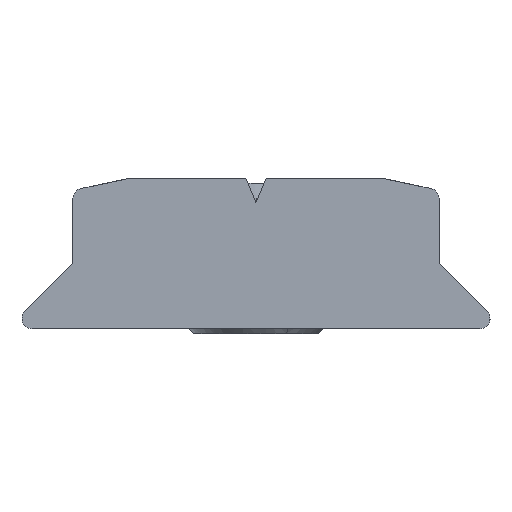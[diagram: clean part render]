
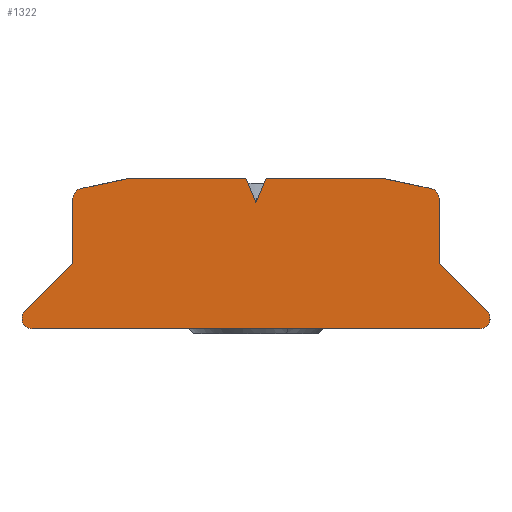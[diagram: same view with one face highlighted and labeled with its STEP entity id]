
A CAD part, left-side view. The second image highlights one B-rep face of the part: STEP entity #1322.
In plain terms, the highlighted planar face has unit normal (-1, 0, 0).
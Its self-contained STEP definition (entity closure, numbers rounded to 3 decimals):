
#574=CARTESIAN_POINT('Vertex',(0.,-4.467,8.7)) ;
#579=CARTESIAN_POINT('Line Origine',(0.,0.,8.7)) ;
#583=CARTESIAN_POINT('Vertex',(0.,4.467,8.7)) ;
#925=CARTESIAN_POINT('Vertex',(0.,-2.546,11.696)) ;
#928=CARTESIAN_POINT('Line Origine',(0.,-3.019,11.595)) ;
#932=CARTESIAN_POINT('Vertex',(0.,-3.492,11.495)) ;
#985=CARTESIAN_POINT('Vertex',(0.,-2.504,11.7)) ;
#988=CARTESIAN_POINT('Axis2P3D Location',(0.,-2.504,11.5)) ;
#1020=CARTESIAN_POINT('Vertex',(0.,-0.2,11.7)) ;
#1023=CARTESIAN_POINT('Line Origine',(0.,-1.352,11.7)) ;
#1199=CARTESIAN_POINT('Axis2P3D Location',(0.,4.467,8.9)) ;
#1203=CARTESIAN_POINT('Vertex',(0.,4.609,9.041)) ;
#1218=CARTESIAN_POINT('Axis2P3D Location',(0.,0.,0.)) ;
#1223=CARTESIAN_POINT('Line Origine',(0.,-0.1,11.459)) ;
#1227=CARTESIAN_POINT('Vertex',(0.,0.,11.217)) ;
#1230=CARTESIAN_POINT('Line Origine',(0.,0.1,11.459)) ;
#1234=CARTESIAN_POINT('Vertex',(0.,0.2,11.7)) ;
#1237=CARTESIAN_POINT('Line Origine',(0.,1.352,11.7)) ;
#1241=CARTESIAN_POINT('Vertex',(0.,2.504,11.7)) ;
#1244=CARTESIAN_POINT('Axis2P3D Location',(0.,2.504,11.5)) ;
#1248=CARTESIAN_POINT('Vertex',(0.,2.546,11.696)) ;
#1251=CARTESIAN_POINT('Line Origine',(0.,3.019,11.595)) ;
#1255=CARTESIAN_POINT('Vertex',(0.,3.492,11.495)) ;
#1258=CARTESIAN_POINT('Axis2P3D Location',(0.,3.45,11.299)) ;
#1262=CARTESIAN_POINT('Vertex',(0.,3.65,11.299)) ;
#1265=CARTESIAN_POINT('Line Origine',(0.,3.65,10.649)) ;
#1269=CARTESIAN_POINT('Vertex',(0.,3.65,10.)) ;
#1272=CARTESIAN_POINT('Line Origine',(0.,4.129,9.521)) ;
#1277=CARTESIAN_POINT('Axis2P3D Location',(0.,-4.467,8.9)) ;
#1281=CARTESIAN_POINT('Vertex',(0.,-4.609,9.041)) ;
#1284=CARTESIAN_POINT('Line Origine',(0.,-4.129,9.521)) ;
#1288=CARTESIAN_POINT('Vertex',(0.,-3.65,10.)) ;
#1291=CARTESIAN_POINT('Line Origine',(0.,-3.65,10.649)) ;
#1295=CARTESIAN_POINT('Vertex',(0.,-3.65,11.299)) ;
#1298=CARTESIAN_POINT('Axis2P3D Location',(0.,-3.45,11.299)) ;
#580=DIRECTION('Vector Direction',(0.,-1.,0.)) ;
#929=DIRECTION('Vector Direction',(0.,-0.978,-0.208)) ;
#989=DIRECTION('Axis2P3D Direction',(1.,0.,0.)) ;
#1024=DIRECTION('Vector Direction',(0.,1.,0.)) ;
#1200=DIRECTION('Axis2P3D Direction',(1.,0.,0.)) ;
#1219=DIRECTION('Axis2P3D Direction',(1.,0.,0.)) ;
#1220=DIRECTION('Axis2P3D XDirection',(0.,1.,0.)) ;
#1224=DIRECTION('Vector Direction',(0.,0.383,-0.924)) ;
#1231=DIRECTION('Vector Direction',(0.,0.383,0.924)) ;
#1238=DIRECTION('Vector Direction',(0.,1.,0.)) ;
#1245=DIRECTION('Axis2P3D Direction',(1.,0.,0.)) ;
#1252=DIRECTION('Vector Direction',(0.,0.978,-0.208)) ;
#1259=DIRECTION('Axis2P3D Direction',(1.,0.,0.)) ;
#1266=DIRECTION('Vector Direction',(0.,0.,-1.)) ;
#1273=DIRECTION('Vector Direction',(0.,0.707,-0.707)) ;
#1278=DIRECTION('Axis2P3D Direction',(1.,0.,0.)) ;
#1285=DIRECTION('Vector Direction',(0.,-0.707,-0.707)) ;
#1292=DIRECTION('Vector Direction',(0.,0.,-1.)) ;
#1299=DIRECTION('Axis2P3D Direction',(1.,0.,0.)) ;
#990=AXIS2_PLACEMENT_3D('Circle Axis2P3D',#988,#989,$) ;
#1201=AXIS2_PLACEMENT_3D('Circle Axis2P3D',#1199,#1200,$) ;
#1221=AXIS2_PLACEMENT_3D('Plane Axis2P3D',#1218,#1219,#1220) ;
#1246=AXIS2_PLACEMENT_3D('Circle Axis2P3D',#1244,#1245,$) ;
#1260=AXIS2_PLACEMENT_3D('Circle Axis2P3D',#1258,#1259,$) ;
#1279=AXIS2_PLACEMENT_3D('Circle Axis2P3D',#1277,#1278,$) ;
#1300=AXIS2_PLACEMENT_3D('Circle Axis2P3D',#1298,#1299,$) ;
#1304=ORIENTED_EDGE('',*,*,#1229,.T.) ;
#1305=ORIENTED_EDGE('',*,*,#1236,.T.) ;
#1306=ORIENTED_EDGE('',*,*,#1243,.F.) ;
#1307=ORIENTED_EDGE('',*,*,#1250,.F.) ;
#1308=ORIENTED_EDGE('',*,*,#1257,.F.) ;
#1309=ORIENTED_EDGE('',*,*,#1264,.F.) ;
#1310=ORIENTED_EDGE('',*,*,#1271,.F.) ;
#1311=ORIENTED_EDGE('',*,*,#1276,.F.) ;
#1312=ORIENTED_EDGE('',*,*,#1205,.F.) ;
#1313=ORIENTED_EDGE('',*,*,#585,.F.) ;
#1314=ORIENTED_EDGE('',*,*,#1283,.F.) ;
#1315=ORIENTED_EDGE('',*,*,#1290,.F.) ;
#1316=ORIENTED_EDGE('',*,*,#1297,.F.) ;
#1317=ORIENTED_EDGE('',*,*,#1302,.F.) ;
#1318=ORIENTED_EDGE('',*,*,#934,.F.) ;
#1319=ORIENTED_EDGE('',*,*,#992,.F.) ;
#1320=ORIENTED_EDGE('',*,*,#1027,.F.) ;
#581=VECTOR('Line Direction',#580,1.) ;
#930=VECTOR('Line Direction',#929,1.) ;
#1025=VECTOR('Line Direction',#1024,1.) ;
#1225=VECTOR('Line Direction',#1224,1.) ;
#1232=VECTOR('Line Direction',#1231,1.) ;
#1239=VECTOR('Line Direction',#1238,1.) ;
#1253=VECTOR('Line Direction',#1252,1.) ;
#1267=VECTOR('Line Direction',#1266,1.) ;
#1274=VECTOR('Line Direction',#1273,1.) ;
#1286=VECTOR('Line Direction',#1285,1.) ;
#1293=VECTOR('Line Direction',#1292,1.) ;
#1322=ADVANCED_FACE('EGT_200_NUTENSTEIN_K.1\\PartBody',(#1321),#1222,.F.) ;
#991=CIRCLE('generated circle',#990,0.2) ;
#1202=CIRCLE('generated circle',#1201,0.2) ;
#1247=CIRCLE('generated circle',#1246,0.2) ;
#1261=CIRCLE('generated circle',#1260,0.2) ;
#1280=CIRCLE('generated circle',#1279,0.2) ;
#1301=CIRCLE('generated circle',#1300,0.2) ;
#585=EDGE_CURVE('',#575,#584,#582,.F.) ;
#934=EDGE_CURVE('',#926,#933,#931,.T.) ;
#992=EDGE_CURVE('',#986,#926,#991,.T.) ;
#1027=EDGE_CURVE('',#1021,#986,#1026,.F.) ;
#1205=EDGE_CURVE('',#584,#1204,#1202,.T.) ;
#1229=EDGE_CURVE('',#1021,#1228,#1226,.T.) ;
#1236=EDGE_CURVE('',#1228,#1235,#1233,.T.) ;
#1243=EDGE_CURVE('',#1242,#1235,#1240,.F.) ;
#1250=EDGE_CURVE('',#1249,#1242,#1247,.T.) ;
#1257=EDGE_CURVE('',#1256,#1249,#1254,.F.) ;
#1264=EDGE_CURVE('',#1263,#1256,#1261,.T.) ;
#1271=EDGE_CURVE('',#1270,#1263,#1268,.F.) ;
#1276=EDGE_CURVE('',#1204,#1270,#1275,.F.) ;
#1283=EDGE_CURVE('',#1282,#575,#1280,.T.) ;
#1290=EDGE_CURVE('',#1289,#1282,#1287,.T.) ;
#1297=EDGE_CURVE('',#1296,#1289,#1294,.T.) ;
#1302=EDGE_CURVE('',#933,#1296,#1301,.T.) ;
#1303=EDGE_LOOP('',(#1304,#1305,#1306,#1307,#1308,#1309,#1310,#1311,#1312,#1313,#1314,#1315,#1316,#1317,#1318,#1319,#1320)) ;
#1321=FACE_OUTER_BOUND('',#1303,.T.) ;
#582=LINE('Line',#579,#581) ;
#931=LINE('Line',#928,#930) ;
#1026=LINE('Line',#1023,#1025) ;
#1226=LINE('Line',#1223,#1225) ;
#1233=LINE('Line',#1230,#1232) ;
#1240=LINE('Line',#1237,#1239) ;
#1254=LINE('Line',#1251,#1253) ;
#1268=LINE('Line',#1265,#1267) ;
#1275=LINE('Line',#1272,#1274) ;
#1287=LINE('Line',#1284,#1286) ;
#1294=LINE('Line',#1291,#1293) ;
#1222=PLANE('Plane',#1221) ;
#575=VERTEX_POINT('',#574) ;
#584=VERTEX_POINT('',#583) ;
#926=VERTEX_POINT('',#925) ;
#933=VERTEX_POINT('',#932) ;
#986=VERTEX_POINT('',#985) ;
#1021=VERTEX_POINT('',#1020) ;
#1204=VERTEX_POINT('',#1203) ;
#1228=VERTEX_POINT('',#1227) ;
#1235=VERTEX_POINT('',#1234) ;
#1242=VERTEX_POINT('',#1241) ;
#1249=VERTEX_POINT('',#1248) ;
#1256=VERTEX_POINT('',#1255) ;
#1263=VERTEX_POINT('',#1262) ;
#1270=VERTEX_POINT('',#1269) ;
#1282=VERTEX_POINT('',#1281) ;
#1289=VERTEX_POINT('',#1288) ;
#1296=VERTEX_POINT('',#1295) ;
